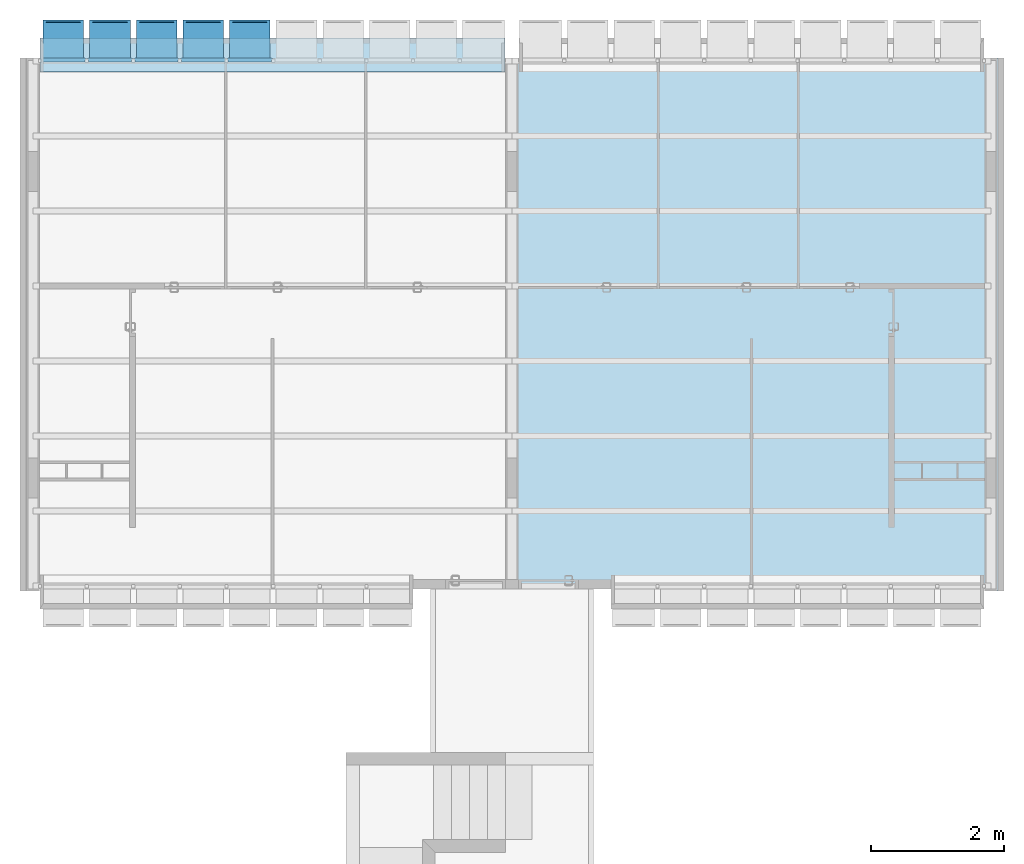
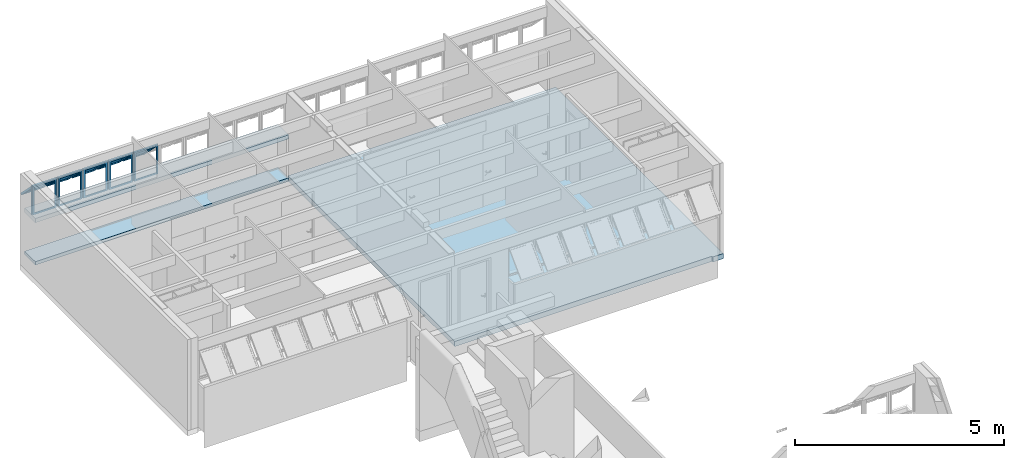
# One storey, part 14 of 40: 5 plates, 3 slabs, 1 element without a shape of its own.
"""IFC4 building model written with IfcOpenShell, lengths in millimetres."""

from ifc_helpers import new_model, entity, si_unit, converted_unit, derived_unit, direction, frame, origin_with_axes, place, context, subcontext, project, spatial, line, indexed_curve, outline, extrude, polygons, source, transform, mapped, material, layer, layer_set, layer_usage, constituent, constituent_set, type_object, element, aggregate, save


model = new_model("IFC4")

# Units and contexts
model_context = context("Model", 3, precision=0.01, world=origin_with_axes(), true_north=direction((0.0, 1.0)))
body_context = subcontext(model_context, "Body", "Model", "MODEL_VIEW")
ifc_project = project(units=[si_unit("LENGTHUNIT", "METRE", prefix="MILLI"), si_unit("AREAUNIT", "SQUARE_METRE"), si_unit("VOLUMEUNIT", "CUBIC_METRE"), converted_unit("PLANEANGLEUNIT", "DEGREE", entity("IfcPlaneAngleMeasure", 0.0174532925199), si_unit("PLANEANGLEUNIT", "RADIAN"), dimensions=[0, 0, 0, 0, 0, 0, 0]), converted_unit("TIMEUNIT", "Year", entity("IfcTimeMeasure", 31556926.0), si_unit("TIMEUNIT", "SECOND"), dimensions=[0, 0, 1, 0, 0, 0, 0]), si_unit("MASSUNIT", "GRAM", prefix="KILO"), si_unit("THERMODYNAMICTEMPERATUREUNIT", "DEGREE_CELSIUS"), si_unit("LUMINOUSINTENSITYUNIT", "LUMEN"), si_unit("ENERGYUNIT", "JOULE", prefix="MEGA"), derived_unit("THERMALCONDUCTANCEUNIT", [(si_unit("POWERUNIT", "WATT"), 1), (si_unit("LENGTHUNIT", "METRE"), -1), (si_unit("THERMODYNAMICTEMPERATUREUNIT", "KELVIN"), -1)]), derived_unit("SPECIFICHEATCAPACITYUNIT", [(si_unit("ENERGYUNIT", "JOULE"), 1), (si_unit("MASSUNIT", "GRAM", prefix="KILO"), -1), (si_unit("THERMODYNAMICTEMPERATUREUNIT", "KELVIN"), -1)]), derived_unit("MASSDENSITYUNIT", [(si_unit("MASSUNIT", "GRAM", prefix="KILO"), 1), (si_unit("VOLUMEUNIT", "CUBIC_METRE"), -1)])], contexts=[model_context])

# Site, building, storey
site_placement = place(None, origin_with_axes())
site = spatial("IfcSite", under=ifc_project, at=site_placement, Name="Local", CompositionType="ELEMENT")
building_placement = place(site_placement, origin_with_axes())
building = spatial("IfcBuilding", under=site, at=building_placement, Name="Construção", CompositionType="ELEMENT")
storey_placement = place(building_placement, origin_with_axes())
storey = spatial("IfcBuildingStorey", under=building, at=storey_placement, Name="Primeiro Pavimento", CompositionType="ELEMENT", Elevation=0.0)

# Slabs
ifc_material_1 = material(Name="Concreto Armado Moldado in Loco - Estrutural")
ifc_layer_1 = layer(ifc_material_1, 150.0, ventilated="UNKNOWN", Name="Concreto Armado Moldado in Loco - Estrutural")
ifc_layer_set_1 = layer_set([ifc_layer_1], Name="Concreto Armado Moldado in Loco - Estrutural 150")
ifc_layer_usage_1 = layer_usage(ifc_layer_set_1, "AXIS3", "NEGATIVE", 150.0)
slab_type_1 = type_object("IfcSlabType", Name="Concreto Armado Moldado in Loco - Estrutural 150", PredefinedType="FLOOR")
slab_1_placement = place(storey_placement, frame((14770.0, 25860.0, 0.0), z_axis=(0.0, 0.0, 1.0), x_axis=(1.0, 0.0, 0.0)))
element("IfcSlab", 1, at=slab_1_placement, inside=storey, type_object=slab_type_1, material=ifc_layer_usage_1, Name="APTO4-LAJE-000", PredefinedType="FLOOR", context=body_context, shape_type="SweptSolid", body=[
    extrude(outline(indexed_curve([(0.0, 0.0), (-299.999978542, 0.0), (-7385.0, 0.0), (-7385.0, -7964.99999866), (-6160.00008404, -7964.99999866), (-5900.0, -7965.0), (-290.0, -7965.0), (-289.999999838, -8000.00000006), (0.0, -7999.99999872)], segments=[line(1, 2, 3, 4, 5, 6, 7, 8, 9, 1)])), frame((0.0, 0.0, -150.0), z_axis=(0.0, 0.0, 1.0), x_axis=(1.0, 0.0, 0.0)), (0.0, 0.0, 1.0), 150.0),
])
ifc_layer_2 = layer(ifc_material_1, 120.0, ventilated="UNKNOWN", Name="Concreto Armado Moldado in Loco - Estrutural")
ifc_layer_set_2 = layer_set([ifc_layer_2], Name="Concreto Armado Moldado in Loco - Estrutural 120")
ifc_layer_usage_2 = layer_usage(ifc_layer_set_2, "AXIS3", "NEGATIVE", 120.0)
slab_type_2 = type_object("IfcSlabType", Name="Concreto Armado Moldado in Loco - Estrutural 120", PredefinedType="FLOOR")
slab_2_placement = place(storey_placement, frame((300.0, 26160.0, 1355.0), z_axis=(0.0, 0.0, 1.0), x_axis=(1.0, 0.0, 0.0)))
element("IfcSlab", 2, at=slab_2_placement, inside=storey, type_object=slab_type_2, material=ifc_layer_usage_2, Name="APTO3-LAJE-002", PredefinedType="FLOOR", context=body_context, shape_type="SweptSolid", body=[
    extrude(outline(indexed_curve([(0.0, 0.0), (0.0, -510.0), (6980.0, -510.0), (6980.0, 0.0)], segments=[line(1, 2, 3, 4, 1)])), frame((0.0, 0.0, -120.0), z_axis=(0.0, 0.0, 1.0), x_axis=(1.0, 0.0, 0.0)), (0.0, 0.0, 1.0), 120.0),
])
ifc_layer_3 = layer(ifc_material_1, 100.0, ventilated="UNKNOWN", Name="Concreto Armado Moldado in Loco - Estrutural")
ifc_layer_set_3 = layer_set([ifc_layer_3], Name="Concreto Armado Moldado in Loco - Estrutural 100")
ifc_layer_usage_3 = layer_usage(ifc_layer_set_3, "AXIS3", "NEGATIVE", 100.0)
slab_type_3 = type_object("IfcSlabType", Name="Concreto Armado Moldado in Loco - Estrutural 100", PredefinedType="FLOOR")
slab_3_placement = place(storey_placement, frame((300.0, 26160.0, 100.0), z_axis=(0.0, 0.0, 1.0), x_axis=(1.0, 0.0, 0.0)))
element("IfcSlab", 3, at=slab_3_placement, inside=storey, type_object=slab_type_3, material=ifc_layer_usage_3, Name="APTO3-LAJE-001", PredefinedType="FLOOR", context=body_context, shape_type="SweptSolid", body=[
    extrude(outline(indexed_curve([(0.0, 0.0), (0.0, -510.0), (6980.0, -510.0), (6980.0, 0.0)], segments=[line(1, 2, 3, 4, 1)])), frame((0.0, 0.0, -100.0), z_axis=(0.0, 0.0, 1.0), x_axis=(1.0, 0.0, 0.0)), (0.0, 0.0, 1.0), 100.0),
])

# Window, plates
window_type = type_object("IfcWindowType", Name="Tipo de Parede Cortina", PartitioningType="NOTDEFINED", PredefinedType="NOTDEFINED")
window_placement = place(storey_placement, frame((6250.0, 25844.9790225, 1355.02054151), z_axis=(0.0, 0.0, 1.0), x_axis=(1.0, 0.0, 0.0)))
window = element("IfcWindow", 4, at=window_placement, inside=storey, type_object=window_type, Name="APTO3-JANELA-001", PredefinedType="NOTDEFINED")
ifc_material_2 = material(Name="Alumínio")
ifc_constituent_1 = constituent(ifc_material_2, Name="Alumínio")
ifc_material_3 = material(Name="Vidro")
ifc_constituent_2 = constituent(ifc_material_3, Name="Vidro")
ifc_constituent_set_1 = constituent_set(constituents=[ifc_constituent_1, ifc_constituent_2])
plate_type = type_object("IfcPlateType", Name="Painel Principal 690 x 845 x 20", PredefinedType="CURTAIN_PANEL")
shared_shape_1 = source(origin_with_axes(), body_context, "Body", "Tessellation", [
    polygons([(-25.0000036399, 0.0, -40.0), (-25.0000036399, 0.0, -35.0), (-674.999997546, 0.0, -35.0), (-674.999997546, 0.0, -40.0), (-70.0000036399, 45.0, -40.0), (-70.0000036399, 45.0, -35.0), (-629.999997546, 45.0, -35.0), (-629.999997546, 45.0, -40.0)], [[[1, 2, 3, 4]], [[5, 6, 2, 1]], [[2, 6, 7, 3]], [[4, 3, 7, 8]], [[1, 4, 8, 5]], [[8, 7, 6, 5]]], closed=True),
    polygons([(-674.999997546, 0.0, -40.0), (-674.999997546, 0.0, -35.0), (-674.999997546, 844.999891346, -35.0), (-674.999997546, 844.999891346, -40.0), (-629.999997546, 45.0, -40.0), (-629.999997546, 45.0, -35.0), (-629.999997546, 799.999891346, -35.0), (-629.999997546, 799.999891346, -40.0)], [[[1, 2, 3, 4]], [[5, 6, 2, 1]], [[2, 6, 7, 3]], [[4, 3, 7, 8]], [[1, 4, 8, 5]], [[8, 7, 6, 5]]], closed=True),
    polygons([(-25.0000036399, 844.999891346, -40.0), (-25.0000036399, 844.999891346, -35.0), (-70.0000036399, 799.999891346, -35.0), (-70.0000036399, 799.999891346, -40.0), (-674.999997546, 844.999891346, -40.0), (-674.999997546, 844.999891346, -35.0), (-629.999997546, 799.999891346, -35.0), (-629.999997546, 799.999891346, -40.0)], [[[1, 2, 3, 4]], [[5, 6, 2, 1]], [[2, 6, 7, 3]], [[4, 3, 7, 8]], [[1, 4, 8, 5]], [[8, 7, 6, 5]]], closed=True),
    polygons([(-25.0000036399, 0.0, -40.0), (-25.0000036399, 0.0, -35.0), (-70.0000036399, 45.0, -35.0), (-70.0000036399, 45.0, -40.0), (-25.0000036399, 844.999891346, -40.0), (-25.0000036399, 844.999891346, -35.0), (-70.0000036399, 799.999891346, -35.0), (-70.0000036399, 799.999891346, -40.0)], [[[1, 2, 3, 4]], [[5, 6, 2, 1]], [[2, 6, 7, 3]], [[4, 3, 7, 8]], [[1, 4, 8, 5]], [[8, 7, 6, 5]]], closed=True),
    polygons([(-25.0000036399, 0.0, -35.0), (-25.0000036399, 0.0, 15.0), (-674.999997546, 0.0, 15.0), (-674.999997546, 0.0, -35.0), (-45.0000036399, 20.0, -35.0), (-45.0000036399, 20.0, 15.0), (-654.999997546, 20.0, 15.0), (-654.999997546, 20.0, -35.0)], [[[1, 2, 3, 4]], [[5, 6, 2, 1]], [[2, 6, 7, 3]], [[4, 3, 7, 8]], [[1, 4, 8, 5]], [[8, 7, 6, 5]]], closed=True),
    polygons([(-674.999997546, 0.0, -35.0), (-674.999997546, 0.0, 15.0), (-674.999997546, 844.999891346, 15.0), (-674.999997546, 844.999891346, -35.0), (-654.999997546, 20.0, -35.0), (-654.999997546, 20.0, 15.0), (-654.999997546, 824.999891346, 15.0), (-654.999997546, 824.999891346, -35.0)], [[[1, 2, 3, 4]], [[5, 6, 2, 1]], [[2, 6, 7, 3]], [[4, 3, 7, 8]], [[1, 4, 8, 5]], [[8, 7, 6, 5]]], closed=True),
    polygons([(-25.0000036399, 844.999891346, -35.0), (-25.0000036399, 844.999891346, 15.0), (-45.0000036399, 824.999891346, 15.0), (-45.0000036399, 824.999891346, -35.0), (-674.999997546, 844.999891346, -35.0), (-674.999997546, 844.999891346, 15.0), (-654.999997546, 824.999891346, 15.0), (-654.999997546, 824.999891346, -35.0)], [[[1, 2, 3, 4]], [[5, 6, 2, 1]], [[2, 6, 7, 3]], [[4, 3, 7, 8]], [[1, 4, 8, 5]], [[8, 7, 6, 5]]], closed=True),
    polygons([(-25.0000036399, 0.0, -35.0), (-25.0000036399, 0.0, 15.0), (-45.0000036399, 20.0, 15.0), (-45.0000036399, 20.0, -35.0), (-25.0000036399, 844.999891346, -35.0), (-25.0000036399, 844.999891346, 15.0), (-45.0000036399, 824.999891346, 15.0), (-45.0000036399, 824.999891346, -35.0)], [[[1, 2, 3, 4]], [[5, 6, 2, 1]], [[2, 6, 7, 3]], [[4, 3, 7, 8]], [[1, 4, 8, 5]], [[8, 7, 6, 5]]], closed=True),
    polygons([(-694.999995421, 0.0, -10.0), (-694.999995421, 0.0, 10.0), (-694.999995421, 844.999891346, 10.0), (-694.999995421, 844.999891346, -10.0), (-674.999997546, 0.0, -10.0), (-674.999997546, 0.0, 10.0), (-674.999997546, 844.999891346, 10.0), (-674.999997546, 844.999891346, -10.0)], [[[1, 2, 3, 4]], [[5, 6, 2, 1]], [[2, 6, 7, 3]], [[4, 3, 7, 8]], [[1, 4, 8, 5]], [[8, 7, 6, 5]]], closed=True),
    polygons([(-5.00000576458, 844.999891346, -10.0), (-5.00000576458, 844.999891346, 10.0), (-5.00000576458, 0.0, 10.0), (-5.00000576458, 0.0, -10.0), (-25.0000036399, 844.999891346, -10.0), (-25.0000036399, 844.999891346, 10.0), (-25.0000036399, 0.0, 10.0), (-25.0000036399, 0.0, -10.0)], [[[1, 2, 3, 4]], [[5, 6, 2, 1]], [[2, 6, 7, 3]], [[4, 3, 7, 8]], [[1, 4, 8, 5]], [[8, 7, 6, 5]]], closed=True),
    polygons([(-90.0000036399, 252.243475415, 517.045737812), (-90.0000036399, 291.13434838, 555.936610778), (-90.0000036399, 796.715620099, 50.3553390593), (-90.0000036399, 757.824747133, 11.4644660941), (-45.0000036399, 220.423670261, 548.865542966), (-45.0000036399, 259.314543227, 587.756415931), (-45.0000036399, 828.535425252, 18.5355339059), (-45.0000036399, 789.644552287, -20.3553390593)], [[[1, 2, 3, 4]], [[5, 6, 2, 1]], [[2, 6, 7, 3]], [[4, 3, 7, 8]], [[1, 4, 8, 5]], [[8, 7, 6, 5]]], closed=True),
    polygons([(-654.999997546, 220.423670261, 548.865542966), (-654.999997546, 259.314543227, 587.756415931), (-654.999997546, 828.535425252, 18.5355339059), (-654.999997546, 789.644552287, -20.3553390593), (-609.999997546, 252.243475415, 517.045737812), (-609.999997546, 291.13434838, 555.936610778), (-609.999997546, 796.715620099, 50.3553390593), (-609.999997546, 757.824747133, 11.4644660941)], [[[1, 2, 3, 4]], [[5, 6, 2, 1]], [[2, 6, 7, 3]], [[4, 3, 7, 8]], [[1, 4, 8, 5]], [[8, 7, 6, 5]]], closed=True),
    polygons([(-654.999997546, 220.423670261, 548.865542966), (-654.999997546, 259.314543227, 587.756415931), (-609.999997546, 291.13434838, 555.936610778), (-609.999997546, 252.243475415, 517.045737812), (-45.0000036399, 220.423670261, 548.865542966), (-45.0000036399, 259.314543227, 587.756415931), (-90.0000036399, 291.13434838, 555.936610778), (-90.0000036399, 252.243475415, 517.045737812)], [[[1, 2, 3, 4]], [[5, 6, 2, 1]], [[2, 6, 7, 3]], [[4, 3, 7, 8]], [[1, 4, 8, 5]], [[8, 7, 6, 5]]], closed=True),
    polygons([(-45.0000036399, 789.644552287, -20.3553390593), (-45.0000036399, 828.535425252, 18.5355339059), (-90.0000036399, 796.715620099, 50.3553390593), (-90.0000036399, 757.824747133, 11.4644660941), (-654.999997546, 789.644552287, -20.3553390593), (-654.999997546, 828.535425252, 18.5355339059), (-609.999997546, 796.715620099, 50.3553390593), (-609.999997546, 757.824747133, 11.4644660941)], [[[1, 2, 3, 4]], [[5, 6, 2, 1]], [[2, 6, 7, 3]], [[4, 3, 7, 8]], [[1, 4, 8, 5]], [[8, 7, 6, 5]]], closed=True),
    polygons([(-90.0000036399, 272.749572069, 537.551834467), (-90.0000036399, 284.063280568, 548.865542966), (-609.999997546, 284.063280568, 548.865542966), (-609.999997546, 272.749572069, 537.551834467), (-90.0000036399, 778.330843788, 31.9705627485), (-90.0000036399, 789.644552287, 43.2842712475), (-609.999997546, 789.644552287, 43.2842712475), (-609.999997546, 778.330843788, 31.9705627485)], [[[1, 2, 3, 4]], [[5, 6, 2, 1]], [[2, 6, 7, 3]], [[4, 3, 7, 8]], [[1, 4, 8, 5]], [[8, 7, 6, 5]]], closed=True),
])
plate_1_placement = place(window_placement, frame((-3500.0, 0.0, 422.499945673), z_axis=(0.0, 0.0, 1.0), x_axis=(-1.0, 0.0, 0.0)))
plate_1 = element("IfcPlate", 5, at=plate_1_placement, type_object=plate_type, material=ifc_constituent_set_1, Name="APTO3-Painel-Prin-013", PredefinedType="CURTAIN_PANEL", context=body_context, shape_type="MappedRepresentation", body=[
    mapped(shared_shape_1, transform((350.0, 0.0, -422.499945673), x_axis=(1.0, 0.0, 0.0), y_axis=(0.0, 0.0, 1.0), z_axis=(0.0, -1.0, 0.0))),
])
ifc_constituent_3 = constituent(ifc_material_2, Name="Alumínio")
ifc_constituent_4 = constituent(ifc_material_3, Name="Vidro")
ifc_constituent_set_2 = constituent_set(constituents=[ifc_constituent_3, ifc_constituent_4])
shared_shape_2 = source(origin_with_axes(), body_context, "Body", "Tessellation", [
    polygons([(-25.0000036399, 0.0, -40.0), (-25.0000036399, 0.0, -35.0), (-674.999997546, 0.0, -35.0), (-674.999997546, 0.0, -40.0), (-70.0000036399, 45.0, -40.0), (-70.0000036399, 45.0, -35.0), (-629.999997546, 45.0, -35.0), (-629.999997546, 45.0, -40.0)], [[[1, 2, 3, 4]], [[5, 6, 2, 1]], [[2, 6, 7, 3]], [[4, 3, 7, 8]], [[1, 4, 8, 5]], [[8, 7, 6, 5]]], closed=True),
    polygons([(-674.999997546, 0.0, -40.0), (-674.999997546, 0.0, -35.0), (-674.999997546, 844.999891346, -35.0), (-674.999997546, 844.999891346, -40.0), (-629.999997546, 45.0, -40.0), (-629.999997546, 45.0, -35.0), (-629.999997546, 799.999891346, -35.0), (-629.999997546, 799.999891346, -40.0)], [[[1, 2, 3, 4]], [[5, 6, 2, 1]], [[2, 6, 7, 3]], [[4, 3, 7, 8]], [[1, 4, 8, 5]], [[8, 7, 6, 5]]], closed=True),
    polygons([(-25.0000036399, 844.999891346, -40.0), (-25.0000036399, 844.999891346, -35.0), (-70.0000036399, 799.999891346, -35.0), (-70.0000036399, 799.999891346, -40.0), (-674.999997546, 844.999891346, -40.0), (-674.999997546, 844.999891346, -35.0), (-629.999997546, 799.999891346, -35.0), (-629.999997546, 799.999891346, -40.0)], [[[1, 2, 3, 4]], [[5, 6, 2, 1]], [[2, 6, 7, 3]], [[4, 3, 7, 8]], [[1, 4, 8, 5]], [[8, 7, 6, 5]]], closed=True),
    polygons([(-25.0000036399, 0.0, -40.0), (-25.0000036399, 0.0, -35.0), (-70.0000036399, 45.0, -35.0), (-70.0000036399, 45.0, -40.0), (-25.0000036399, 844.999891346, -40.0), (-25.0000036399, 844.999891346, -35.0), (-70.0000036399, 799.999891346, -35.0), (-70.0000036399, 799.999891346, -40.0)], [[[1, 2, 3, 4]], [[5, 6, 2, 1]], [[2, 6, 7, 3]], [[4, 3, 7, 8]], [[1, 4, 8, 5]], [[8, 7, 6, 5]]], closed=True),
    polygons([(-25.0000036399, 0.0, -35.0), (-25.0000036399, 0.0, 15.0), (-674.999997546, 0.0, 15.0), (-674.999997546, 0.0, -35.0), (-45.0000036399, 20.0, -35.0), (-45.0000036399, 20.0, 15.0), (-654.999997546, 20.0, 15.0), (-654.999997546, 20.0, -35.0)], [[[1, 2, 3, 4]], [[5, 6, 2, 1]], [[2, 6, 7, 3]], [[4, 3, 7, 8]], [[1, 4, 8, 5]], [[8, 7, 6, 5]]], closed=True),
    polygons([(-674.999997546, 0.0, -35.0), (-674.999997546, 0.0, 15.0), (-674.999997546, 844.999891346, 15.0), (-674.999997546, 844.999891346, -35.0), (-654.999997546, 20.0, -35.0), (-654.999997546, 20.0, 15.0), (-654.999997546, 824.999891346, 15.0), (-654.999997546, 824.999891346, -35.0)], [[[1, 2, 3, 4]], [[5, 6, 2, 1]], [[2, 6, 7, 3]], [[4, 3, 7, 8]], [[1, 4, 8, 5]], [[8, 7, 6, 5]]], closed=True),
    polygons([(-25.0000036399, 844.999891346, -35.0), (-25.0000036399, 844.999891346, 15.0), (-45.0000036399, 824.999891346, 15.0), (-45.0000036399, 824.999891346, -35.0), (-674.999997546, 844.999891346, -35.0), (-674.999997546, 844.999891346, 15.0), (-654.999997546, 824.999891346, 15.0), (-654.999997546, 824.999891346, -35.0)], [[[1, 2, 3, 4]], [[5, 6, 2, 1]], [[2, 6, 7, 3]], [[4, 3, 7, 8]], [[1, 4, 8, 5]], [[8, 7, 6, 5]]], closed=True),
    polygons([(-25.0000036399, 0.0, -35.0), (-25.0000036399, 0.0, 15.0), (-45.0000036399, 20.0, 15.0), (-45.0000036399, 20.0, -35.0), (-25.0000036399, 844.999891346, -35.0), (-25.0000036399, 844.999891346, 15.0), (-45.0000036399, 824.999891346, 15.0), (-45.0000036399, 824.999891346, -35.0)], [[[1, 2, 3, 4]], [[5, 6, 2, 1]], [[2, 6, 7, 3]], [[4, 3, 7, 8]], [[1, 4, 8, 5]], [[8, 7, 6, 5]]], closed=True),
    polygons([(-694.999995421, 0.0, -10.0), (-694.999995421, 0.0, 10.0), (-694.999995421, 844.999891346, 10.0), (-694.999995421, 844.999891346, -10.0), (-674.999997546, 0.0, -10.0), (-674.999997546, 0.0, 10.0), (-674.999997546, 844.999891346, 10.0), (-674.999997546, 844.999891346, -10.0)], [[[1, 2, 3, 4]], [[5, 6, 2, 1]], [[2, 6, 7, 3]], [[4, 3, 7, 8]], [[1, 4, 8, 5]], [[8, 7, 6, 5]]], closed=True),
    polygons([(-5.00000576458, 844.999891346, -10.0), (-5.00000576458, 844.999891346, 10.0), (-5.00000576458, 0.0, 10.0), (-5.00000576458, 0.0, -10.0), (-25.0000036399, 844.999891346, -10.0), (-25.0000036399, 844.999891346, 10.0), (-25.0000036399, 0.0, 10.0), (-25.0000036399, 0.0, -10.0)], [[[1, 2, 3, 4]], [[5, 6, 2, 1]], [[2, 6, 7, 3]], [[4, 3, 7, 8]], [[1, 4, 8, 5]], [[8, 7, 6, 5]]], closed=True),
    polygons([(-90.0000036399, 252.243475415, 517.045737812), (-90.0000036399, 291.13434838, 555.936610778), (-90.0000036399, 796.715620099, 50.3553390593), (-90.0000036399, 757.824747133, 11.4644660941), (-45.0000036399, 220.423670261, 548.865542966), (-45.0000036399, 259.314543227, 587.756415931), (-45.0000036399, 828.535425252, 18.5355339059), (-45.0000036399, 789.644552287, -20.3553390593)], [[[1, 2, 3, 4]], [[5, 6, 2, 1]], [[2, 6, 7, 3]], [[4, 3, 7, 8]], [[1, 4, 8, 5]], [[8, 7, 6, 5]]], closed=True),
    polygons([(-654.999997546, 220.423670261, 548.865542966), (-654.999997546, 259.314543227, 587.756415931), (-654.999997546, 828.535425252, 18.5355339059), (-654.999997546, 789.644552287, -20.3553390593), (-609.999997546, 252.243475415, 517.045737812), (-609.999997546, 291.13434838, 555.936610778), (-609.999997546, 796.715620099, 50.3553390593), (-609.999997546, 757.824747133, 11.4644660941)], [[[1, 2, 3, 4]], [[5, 6, 2, 1]], [[2, 6, 7, 3]], [[4, 3, 7, 8]], [[1, 4, 8, 5]], [[8, 7, 6, 5]]], closed=True),
    polygons([(-654.999997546, 220.423670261, 548.865542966), (-654.999997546, 259.314543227, 587.756415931), (-609.999997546, 291.13434838, 555.936610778), (-609.999997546, 252.243475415, 517.045737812), (-45.0000036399, 220.423670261, 548.865542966), (-45.0000036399, 259.314543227, 587.756415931), (-90.0000036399, 291.13434838, 555.936610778), (-90.0000036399, 252.243475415, 517.045737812)], [[[1, 2, 3, 4]], [[5, 6, 2, 1]], [[2, 6, 7, 3]], [[4, 3, 7, 8]], [[1, 4, 8, 5]], [[8, 7, 6, 5]]], closed=True),
    polygons([(-45.0000036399, 789.644552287, -20.3553390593), (-45.0000036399, 828.535425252, 18.5355339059), (-90.0000036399, 796.715620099, 50.3553390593), (-90.0000036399, 757.824747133, 11.4644660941), (-654.999997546, 789.644552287, -20.3553390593), (-654.999997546, 828.535425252, 18.5355339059), (-609.999997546, 796.715620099, 50.3553390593), (-609.999997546, 757.824747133, 11.4644660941)], [[[1, 2, 3, 4]], [[5, 6, 2, 1]], [[2, 6, 7, 3]], [[4, 3, 7, 8]], [[1, 4, 8, 5]], [[8, 7, 6, 5]]], closed=True),
    polygons([(-90.0000036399, 272.749572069, 537.551834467), (-90.0000036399, 284.063280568, 548.865542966), (-609.999997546, 284.063280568, 548.865542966), (-609.999997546, 272.749572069, 537.551834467), (-90.0000036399, 778.330843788, 31.9705627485), (-90.0000036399, 789.644552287, 43.2842712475), (-609.999997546, 789.644552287, 43.2842712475), (-609.999997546, 778.330843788, 31.9705627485)], [[[1, 2, 3, 4]], [[5, 6, 2, 1]], [[2, 6, 7, 3]], [[4, 3, 7, 8]], [[1, 4, 8, 5]], [[8, 7, 6, 5]]], closed=True),
])
plate_2_placement = place(window_placement, frame((-5600.0, 0.0, 422.499945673), z_axis=(0.0, 0.0, 1.0), x_axis=(-1.0, 0.0, 0.0)))
plate_2 = element("IfcPlate", 6, at=plate_2_placement, type_object=plate_type, material=ifc_constituent_set_2, Name="APTO3-Painel-Prin-013", PredefinedType="CURTAIN_PANEL", context=body_context, shape_type="MappedRepresentation", body=[
    mapped(shared_shape_2, transform((350.0, 0.0, -422.499945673), x_axis=(1.0, 0.0, 0.0), y_axis=(0.0, 0.0, 1.0), z_axis=(0.0, -1.0, 0.0))),
])
ifc_constituent_5 = constituent(ifc_material_2, Name="Alumínio")
ifc_constituent_6 = constituent(ifc_material_3, Name="Vidro")
ifc_constituent_set_3 = constituent_set(constituents=[ifc_constituent_5, ifc_constituent_6])
plate_3_placement = place(window_placement, frame((-4900.0, 0.0, 422.499945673), z_axis=(0.0, 0.0, 1.0), x_axis=(-1.0, 0.0, 0.0)))
plate_3 = element("IfcPlate", 7, at=plate_3_placement, type_object=plate_type, material=ifc_constituent_set_3, Name="APTO3-Painel-Prin-013", PredefinedType="CURTAIN_PANEL", context=body_context, shape_type="MappedRepresentation", body=[
    mapped(shared_shape_2, transform((350.0, 0.0, -422.499945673), x_axis=(1.0, 0.0, 0.0), y_axis=(0.0, 0.0, 1.0), z_axis=(0.0, -1.0, 0.0))),
])
ifc_constituent_7 = constituent(ifc_material_2, Name="Alumínio")
ifc_constituent_8 = constituent(ifc_material_3, Name="Vidro")
ifc_constituent_set_4 = constituent_set(constituents=[ifc_constituent_7, ifc_constituent_8])
shared_shape_3 = source(origin_with_axes(), body_context, "Body", "Tessellation", [
    polygons([(-25.0000036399, 0.0, -40.0), (-25.0000036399, 0.0, -35.0), (-674.999997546, 0.0, -35.0), (-674.999997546, 0.0, -40.0), (-70.0000036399, 45.0, -40.0), (-70.0000036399, 45.0, -35.0), (-629.999997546, 45.0, -35.0), (-629.999997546, 45.0, -40.0)], [[[1, 2, 3, 4]], [[5, 6, 2, 1]], [[2, 6, 7, 3]], [[4, 3, 7, 8]], [[1, 4, 8, 5]], [[8, 7, 6, 5]]], closed=True),
    polygons([(-674.999997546, 0.0, -40.0), (-674.999997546, 0.0, -35.0), (-674.999997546, 844.999891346, -35.0), (-674.999997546, 844.999891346, -40.0), (-629.999997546, 45.0, -40.0), (-629.999997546, 45.0, -35.0), (-629.999997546, 799.999891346, -35.0), (-629.999997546, 799.999891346, -40.0)], [[[1, 2, 3, 4]], [[5, 6, 2, 1]], [[2, 6, 7, 3]], [[4, 3, 7, 8]], [[1, 4, 8, 5]], [[8, 7, 6, 5]]], closed=True),
    polygons([(-25.0000036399, 844.999891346, -40.0), (-25.0000036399, 844.999891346, -35.0), (-70.0000036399, 799.999891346, -35.0), (-70.0000036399, 799.999891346, -40.0), (-674.999997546, 844.999891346, -40.0), (-674.999997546, 844.999891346, -35.0), (-629.999997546, 799.999891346, -35.0), (-629.999997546, 799.999891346, -40.0)], [[[1, 2, 3, 4]], [[5, 6, 2, 1]], [[2, 6, 7, 3]], [[4, 3, 7, 8]], [[1, 4, 8, 5]], [[8, 7, 6, 5]]], closed=True),
    polygons([(-25.0000036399, 0.0, -40.0), (-25.0000036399, 0.0, -35.0), (-70.0000036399, 45.0, -35.0), (-70.0000036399, 45.0, -40.0), (-25.0000036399, 844.999891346, -40.0), (-25.0000036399, 844.999891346, -35.0), (-70.0000036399, 799.999891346, -35.0), (-70.0000036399, 799.999891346, -40.0)], [[[1, 2, 3, 4]], [[5, 6, 2, 1]], [[2, 6, 7, 3]], [[4, 3, 7, 8]], [[1, 4, 8, 5]], [[8, 7, 6, 5]]], closed=True),
    polygons([(-25.0000036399, 0.0, -35.0), (-25.0000036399, 0.0, 15.0), (-674.999997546, 0.0, 15.0), (-674.999997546, 0.0, -35.0), (-45.0000036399, 20.0, -35.0), (-45.0000036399, 20.0, 15.0), (-654.999997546, 20.0, 15.0), (-654.999997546, 20.0, -35.0)], [[[1, 2, 3, 4]], [[5, 6, 2, 1]], [[2, 6, 7, 3]], [[4, 3, 7, 8]], [[1, 4, 8, 5]], [[8, 7, 6, 5]]], closed=True),
    polygons([(-674.999997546, 0.0, -35.0), (-674.999997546, 0.0, 15.0), (-674.999997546, 844.999891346, 15.0), (-674.999997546, 844.999891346, -35.0), (-654.999997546, 20.0, -35.0), (-654.999997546, 20.0, 15.0), (-654.999997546, 824.999891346, 15.0), (-654.999997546, 824.999891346, -35.0)], [[[1, 2, 3, 4]], [[5, 6, 2, 1]], [[2, 6, 7, 3]], [[4, 3, 7, 8]], [[1, 4, 8, 5]], [[8, 7, 6, 5]]], closed=True),
    polygons([(-25.0000036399, 844.999891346, -35.0), (-25.0000036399, 844.999891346, 15.0), (-45.0000036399, 824.999891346, 15.0), (-45.0000036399, 824.999891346, -35.0), (-674.999997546, 844.999891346, -35.0), (-674.999997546, 844.999891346, 15.0), (-654.999997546, 824.999891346, 15.0), (-654.999997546, 824.999891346, -35.0)], [[[1, 2, 3, 4]], [[5, 6, 2, 1]], [[2, 6, 7, 3]], [[4, 3, 7, 8]], [[1, 4, 8, 5]], [[8, 7, 6, 5]]], closed=True),
    polygons([(-25.0000036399, 0.0, -35.0), (-25.0000036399, 0.0, 15.0), (-45.0000036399, 20.0, 15.0), (-45.0000036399, 20.0, -35.0), (-25.0000036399, 844.999891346, -35.0), (-25.0000036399, 844.999891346, 15.0), (-45.0000036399, 824.999891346, 15.0), (-45.0000036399, 824.999891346, -35.0)], [[[1, 2, 3, 4]], [[5, 6, 2, 1]], [[2, 6, 7, 3]], [[4, 3, 7, 8]], [[1, 4, 8, 5]], [[8, 7, 6, 5]]], closed=True),
    polygons([(-694.999995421, 0.0, -10.0), (-694.999995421, 0.0, 10.0), (-694.999995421, 844.999891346, 10.0), (-694.999995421, 844.999891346, -10.0), (-674.999997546, 0.0, -10.0), (-674.999997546, 0.0, 10.0), (-674.999997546, 844.999891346, 10.0), (-674.999997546, 844.999891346, -10.0)], [[[1, 2, 3, 4]], [[5, 6, 2, 1]], [[2, 6, 7, 3]], [[4, 3, 7, 8]], [[1, 4, 8, 5]], [[8, 7, 6, 5]]], closed=True),
    polygons([(-5.00000576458, 844.999891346, -10.0), (-5.00000576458, 844.999891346, 10.0), (-5.00000576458, 0.0, 10.0), (-5.00000576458, 0.0, -10.0), (-25.0000036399, 844.999891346, -10.0), (-25.0000036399, 844.999891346, 10.0), (-25.0000036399, 0.0, 10.0), (-25.0000036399, 0.0, -10.0)], [[[1, 2, 3, 4]], [[5, 6, 2, 1]], [[2, 6, 7, 3]], [[4, 3, 7, 8]], [[1, 4, 8, 5]], [[8, 7, 6, 5]]], closed=True),
    polygons([(-90.0000036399, 252.243475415, 517.045737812), (-90.0000036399, 291.13434838, 555.936610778), (-90.0000036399, 796.715620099, 50.3553390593), (-90.0000036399, 757.824747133, 11.4644660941), (-45.0000036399, 220.423670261, 548.865542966), (-45.0000036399, 259.314543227, 587.756415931), (-45.0000036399, 828.535425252, 18.5355339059), (-45.0000036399, 789.644552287, -20.3553390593)], [[[1, 2, 3, 4]], [[5, 6, 2, 1]], [[2, 6, 7, 3]], [[4, 3, 7, 8]], [[1, 4, 8, 5]], [[8, 7, 6, 5]]], closed=True),
    polygons([(-654.999997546, 220.423670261, 548.865542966), (-654.999997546, 259.314543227, 587.756415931), (-654.999997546, 828.535425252, 18.5355339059), (-654.999997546, 789.644552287, -20.3553390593), (-609.999997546, 252.243475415, 517.045737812), (-609.999997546, 291.13434838, 555.936610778), (-609.999997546, 796.715620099, 50.3553390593), (-609.999997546, 757.824747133, 11.4644660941)], [[[1, 2, 3, 4]], [[5, 6, 2, 1]], [[2, 6, 7, 3]], [[4, 3, 7, 8]], [[1, 4, 8, 5]], [[8, 7, 6, 5]]], closed=True),
    polygons([(-654.999997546, 220.423670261, 548.865542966), (-654.999997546, 259.314543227, 587.756415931), (-609.999997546, 291.13434838, 555.936610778), (-609.999997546, 252.243475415, 517.045737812), (-45.0000036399, 220.423670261, 548.865542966), (-45.0000036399, 259.314543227, 587.756415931), (-90.0000036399, 291.13434838, 555.936610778), (-90.0000036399, 252.243475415, 517.045737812)], [[[1, 2, 3, 4]], [[5, 6, 2, 1]], [[2, 6, 7, 3]], [[4, 3, 7, 8]], [[1, 4, 8, 5]], [[8, 7, 6, 5]]], closed=True),
    polygons([(-45.0000036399, 789.644552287, -20.3553390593), (-45.0000036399, 828.535425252, 18.5355339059), (-90.0000036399, 796.715620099, 50.3553390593), (-90.0000036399, 757.824747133, 11.4644660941), (-654.999997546, 789.644552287, -20.3553390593), (-654.999997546, 828.535425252, 18.5355339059), (-609.999997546, 796.715620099, 50.3553390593), (-609.999997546, 757.824747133, 11.4644660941)], [[[1, 2, 3, 4]], [[5, 6, 2, 1]], [[2, 6, 7, 3]], [[4, 3, 7, 8]], [[1, 4, 8, 5]], [[8, 7, 6, 5]]], closed=True),
    polygons([(-90.0000036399, 272.749572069, 537.551834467), (-90.0000036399, 284.063280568, 548.865542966), (-609.999997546, 284.063280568, 548.865542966), (-609.999997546, 272.749572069, 537.551834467), (-90.0000036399, 778.330843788, 31.9705627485), (-90.0000036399, 789.644552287, 43.2842712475), (-609.999997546, 789.644552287, 43.2842712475), (-609.999997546, 778.330843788, 31.9705627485)], [[[1, 2, 3, 4]], [[5, 6, 2, 1]], [[2, 6, 7, 3]], [[4, 3, 7, 8]], [[1, 4, 8, 5]], [[8, 7, 6, 5]]], closed=True),
])
plate_4_placement = place(window_placement, frame((-2800.0, 0.0, 422.499945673), z_axis=(0.0, 0.0, 1.0), x_axis=(-1.0, 0.0, 0.0)))
plate_4 = element("IfcPlate", 8, at=plate_4_placement, type_object=plate_type, material=ifc_constituent_set_4, Name="APTO3-Painel-Prin-013", PredefinedType="CURTAIN_PANEL", context=body_context, shape_type="MappedRepresentation", body=[
    mapped(shared_shape_3, transform((350.0, 0.0, -422.499945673), x_axis=(1.0, 0.0, 0.0), y_axis=(0.0, 0.0, 1.0), z_axis=(0.0, -1.0, 0.0))),
])
ifc_constituent_9 = constituent(ifc_material_2, Name="Alumínio")
ifc_constituent_10 = constituent(ifc_material_3, Name="Vidro")
ifc_constituent_set_5 = constituent_set(constituents=[ifc_constituent_9, ifc_constituent_10])
plate_5_placement = place(window_placement, frame((-4200.0, 0.0, 422.499945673), z_axis=(0.0, 0.0, 1.0), x_axis=(-1.0, 0.0, 0.0)))
plate_5 = element("IfcPlate", 9, at=plate_5_placement, type_object=plate_type, material=ifc_constituent_set_5, Name="APTO3-Painel-Prin-013", PredefinedType="CURTAIN_PANEL", context=body_context, shape_type="MappedRepresentation", body=[
    mapped(shared_shape_3, transform((350.0, 0.0, -422.499945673), x_axis=(1.0, 0.0, 0.0), y_axis=(0.0, 0.0, 1.0), z_axis=(0.0, -1.0, 0.0))),
])
aggregate(window, [plate_2, plate_3, plate_4, plate_5, plate_1])

save(model, "model.ifc")
